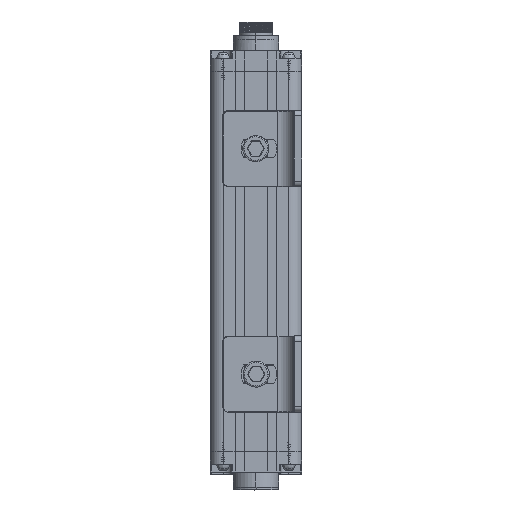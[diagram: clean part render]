
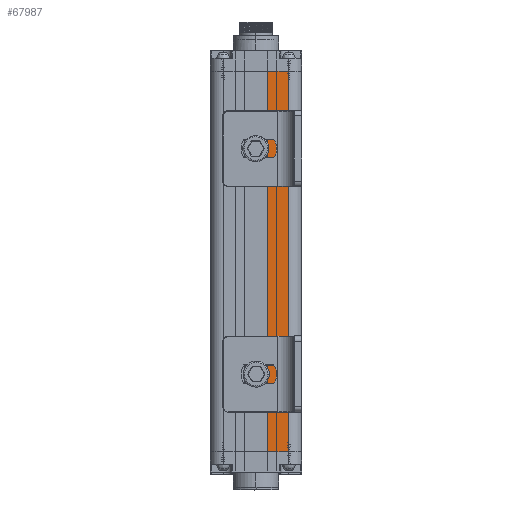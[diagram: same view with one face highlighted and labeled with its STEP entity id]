
A CAD part, top view. The second image highlights one B-rep face of the part: STEP entity #67987.
In plain terms, the highlighted planar face has unit normal (0, 0, 1).
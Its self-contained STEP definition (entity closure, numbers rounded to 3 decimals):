
#2436 = VERTEX_POINT ( 'NONE', #141852 ) ;
#3137 = CARTESIAN_POINT ( 'NONE',  ( 12.35, 145., 13.225 ) ) ;
#16876 = DIRECTION ( 'NONE',  ( 0., -1., 0. ) ) ;
#20303 = ORIENTED_EDGE ( 'NONE', *, *, #49448, .F. ) ;
#20581 = LINE ( 'NONE', #26804, #85831 ) ;
#26804 = CARTESIAN_POINT ( 'NONE',  ( 4.4, 0., 13.225 ) ) ;
#32922 = CARTESIAN_POINT ( 'NONE',  ( 0., 145., 13.225 ) ) ;
#34793 = CARTESIAN_POINT ( 'NONE',  ( 12.35, 0., 13.225 ) ) ;
#38486 = CARTESIAN_POINT ( 'NONE',  ( 12.35, 0., 13.225 ) ) ;
#43944 = DIRECTION ( 'NONE',  ( 1., 0., 0. ) ) ;
#49448 = EDGE_CURVE ( 'NONE', #68070, #103444, #51946, .T. ) ;
#51946 = LINE ( 'NONE', #38486, #141315 ) ;
#52511 = VECTOR ( 'NONE', #130121, 1000. ) ;
#52855 = ORIENTED_EDGE ( 'NONE', *, *, #111010, .T. ) ;
#57382 = DIRECTION ( 'NONE',  ( 0., 0., 1. ) ) ;
#62398 = AXIS2_PLACEMENT_3D ( 'NONE', #101033, #57382, #134600 ) ;
#63291 = LINE ( 'NONE', #32922, #109648 ) ;
#63545 = FACE_OUTER_BOUND ( 'NONE', #141181, .T. ) ;
#67987 = ADVANCED_FACE ( 'NONE', ( #63545 ), #123087, .T. ) ;
#68070 = VERTEX_POINT ( 'NONE', #3137 ) ;
#82143 = ORIENTED_EDGE ( 'NONE', *, *, #116597, .F. ) ;
#85831 = VECTOR ( 'NONE', #137622, 1000. ) ;
#95353 = EDGE_CURVE ( 'NONE', #107407, #103444, #122823, .T. ) ;
#101033 = CARTESIAN_POINT ( 'NONE',  ( 4.4, 0., 13.225 ) ) ;
#103444 = VERTEX_POINT ( 'NONE', #34793 ) ;
#103938 = ORIENTED_EDGE ( 'NONE', *, *, #95353, .T. ) ;
#107407 = VERTEX_POINT ( 'NONE', #118804 ) ;
#108560 = CARTESIAN_POINT ( 'NONE',  ( 0., 0., 13.225 ) ) ;
#109648 = VECTOR ( 'NONE', #43944, 1000. ) ;
#111010 = EDGE_CURVE ( 'NONE', #2436, #107407, #20581, .T. ) ;
#116597 = EDGE_CURVE ( 'NONE', #2436, #68070, #63291, .T. ) ;
#118804 = CARTESIAN_POINT ( 'NONE',  ( 4.4, 0., 13.225 ) ) ;
#122823 = LINE ( 'NONE', #108560, #52511 ) ;
#123087 = PLANE ( 'NONE',  #62398 ) ;
#130121 = DIRECTION ( 'NONE',  ( 1., 0., 0. ) ) ;
#134600 = DIRECTION ( 'NONE',  ( 1., 0., 0. ) ) ;
#137622 = DIRECTION ( 'NONE',  ( 0., -1., 0. ) ) ;
#141181 = EDGE_LOOP ( 'NONE', ( #52855, #103938, #20303, #82143 ) ) ;
#141315 = VECTOR ( 'NONE', #16876, 1000. ) ;
#141852 = CARTESIAN_POINT ( 'NONE',  ( 4.4, 145., 13.225 ) ) ;
